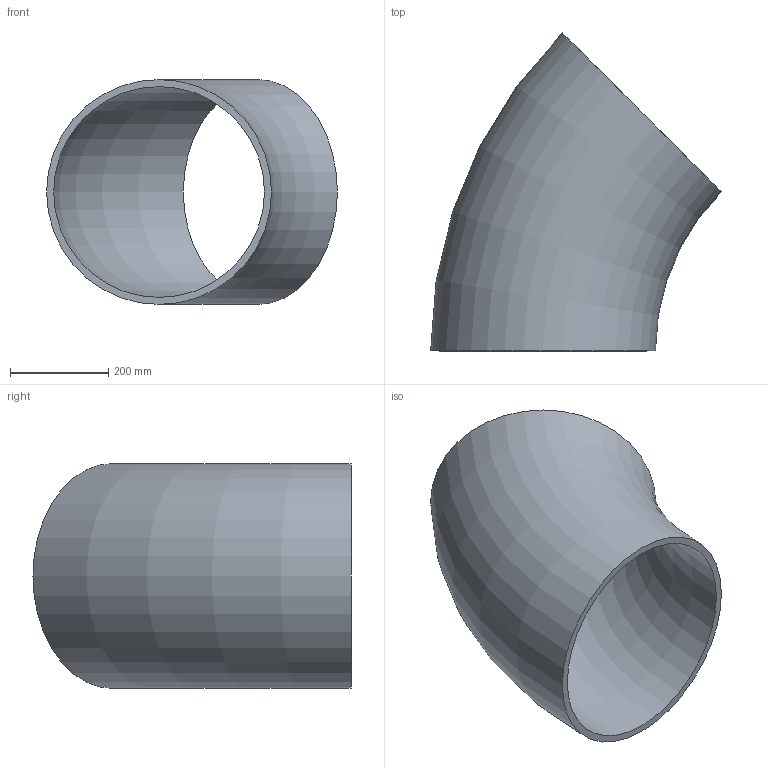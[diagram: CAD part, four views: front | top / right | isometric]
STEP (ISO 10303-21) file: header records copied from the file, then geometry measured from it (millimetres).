
FILE_DESCRIPTION(/* description */ (''),/* implementation_level */ '2;1');
FILE_NAME(/* name */ 'C:\Users\D\Documents\Inventor\HP\JIS\配管\エルボ ロング 45°\Sch40\Elbow45-long-450A-Sch40.stp',/* time_stamp */ '2022-06-08T17:01:28+09:00',/* author */ ('D'),/* organization */ (''),/* preprocessor_version */ 'ST-DEVELOPER v18',/* originating_system */ 'Autodesk Inventor 2020',/* authorisation */ '');
FILE_SCHEMA (('AUTOMOTIVE_DESIGN { 1 0 10303 214 3 1 1 }'));
Length unit declared in the file: millimetre
Products named in the file (1): Elbow-long-90-15A-SGP
Bounding box: 591.11 x 646.58 x 457.2 mm (x, y, z)
Volume: 10717141.2 mm3; surface area: 1538695.2 mm2
Topology: 1 solids, 1 shells, 4 faces, 10 edges, 8 vertices
Faces by surface type: torus 2, plane 2
Entity records: 181 total; most frequent: DIRECTION 30, CARTESIAN_POINT 23, ORIENTED_EDGE 20, AXIS2_PLACEMENT_3D 15, CIRCLE 10, EDGE_CURVE 10, VERTEX_POINT 8, EDGE_LOOP 6
